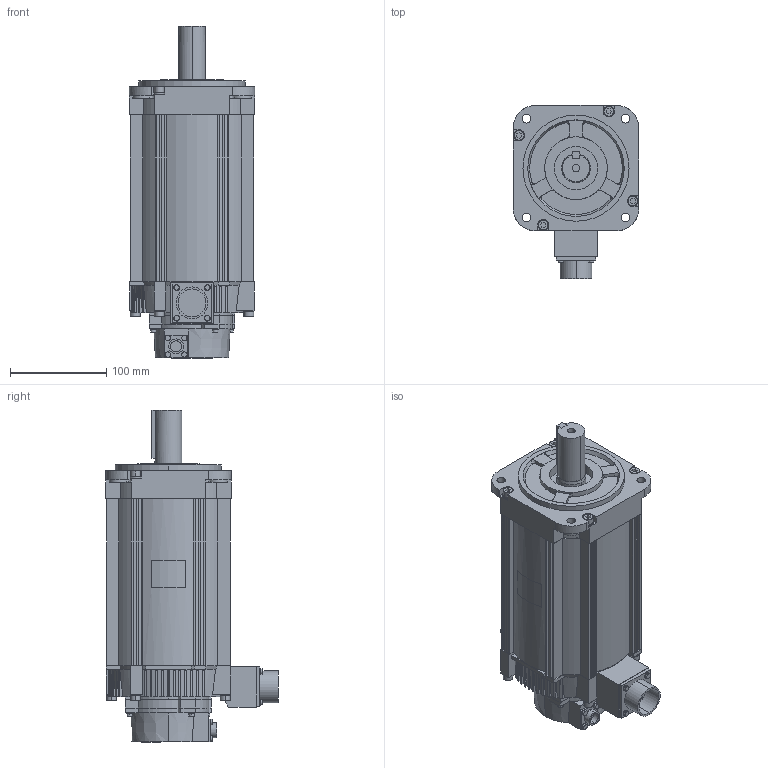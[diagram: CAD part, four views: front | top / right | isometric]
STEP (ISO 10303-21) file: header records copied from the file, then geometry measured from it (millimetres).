
FILE_DESCRIPTION (( 'STEP AP203' ), '1' );
FILE_NAME ('sgm7a_50a6a61.STEP', '2016-11-12T04:48:20', ( '匠エンジニアリング山之内' ), ( 'TAKUMI-Engniaring' ), 'SwSTEP 2.0', 'SolidWorks 2006303', '' );
FILE_SCHEMA (( 'CONFIG_CONTROL_DESIGN' ));
Length unit declared in the file: millimetre
Products named in the file (3): sgm7a_50a6a61_base; sgm7a_50a6a61_key; sgm7a_50a6a61
Assembly tree (2 placements, depth 2):
  sgm7a_50a6a61
    sgm7a_50a6a61_key
    sgm7a_50a6a61_base
Bounding box: 130 x 179 x 344.1 mm (x, y, z)
Volume: 3569115.7 mm3; surface area: 231698.1 mm2
Topology: 2 solids, 2 shells, 723 faces, 1911 edges, 1255 vertices
Faces by surface type: plane 486, cylinder 211, cone 20, bspline 6
Entity records: 23144 total; most frequent: CARTESIAN_POINT 4657, ORIENTED_EDGE 3822, DIRECTION 3774, EDGE_CURVE 1911, AXIS2_PLACEMENT_3D 1285, VERTEX_POINT 1255, VECTOR 1204, LINE 1204
